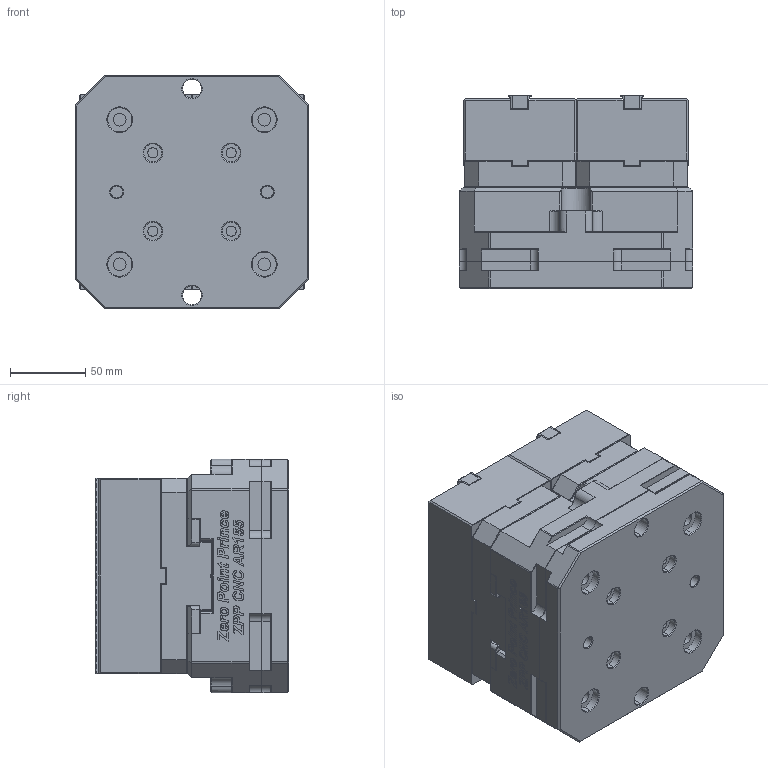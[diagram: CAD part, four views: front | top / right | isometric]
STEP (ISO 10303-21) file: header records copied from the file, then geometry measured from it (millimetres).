
FILE_DESCRIPTION((''),'2;1');
FILE_NAME('AR155_1N_ASM','2024-11-06T10:51:20',('XF'),(''),'CREO PARAMETRIC BY PTC INC, 2023073','CREO PARAMETRIC BY PTC INC, 2023073','');
FILE_SCHEMA(('CONFIG_CONTROL_DESIGN'));
Products named in the file (6): AR155_1_1; AR155-5_45_1_1_1; AR155-9_21_1_1_1; AR155-11_12_1_1_1; AR55-I_ASM_1_ASM; AR155_1N_ASM
Assembly tree (8 placements, depth 3):
  AR155_1N_ASM
    AR55-I_ASM_1_ASM
      AR155_1_1
      AR155-5_45_1_1_1  x2
      AR155-9_21_1_1_1  x2
      AR155-11_12_1_1_1  x2
Bounding box: 155 x 128.5 x 155 mm (x, y, z)
Volume: 2498227.6 mm3; surface area: 275010.4 mm2
Topology: 7 solids, 31 shells, 2664 faces, 7449 edges, 4900 vertices
Faces by surface type: plane 1301, extrusion 548, cylinder 475, cone 334, bspline 4, sphere 2
Entity records: 69918 total; most frequent: CARTESIAN_POINT 18611, ORIENTED_EDGE 11392, DIRECTION 8918, EDGE_CURVE 5718, VECTOR 3930, VERTEX_POINT 3767, LINE 3382, AXIS2_PLACEMENT_3D 2494
